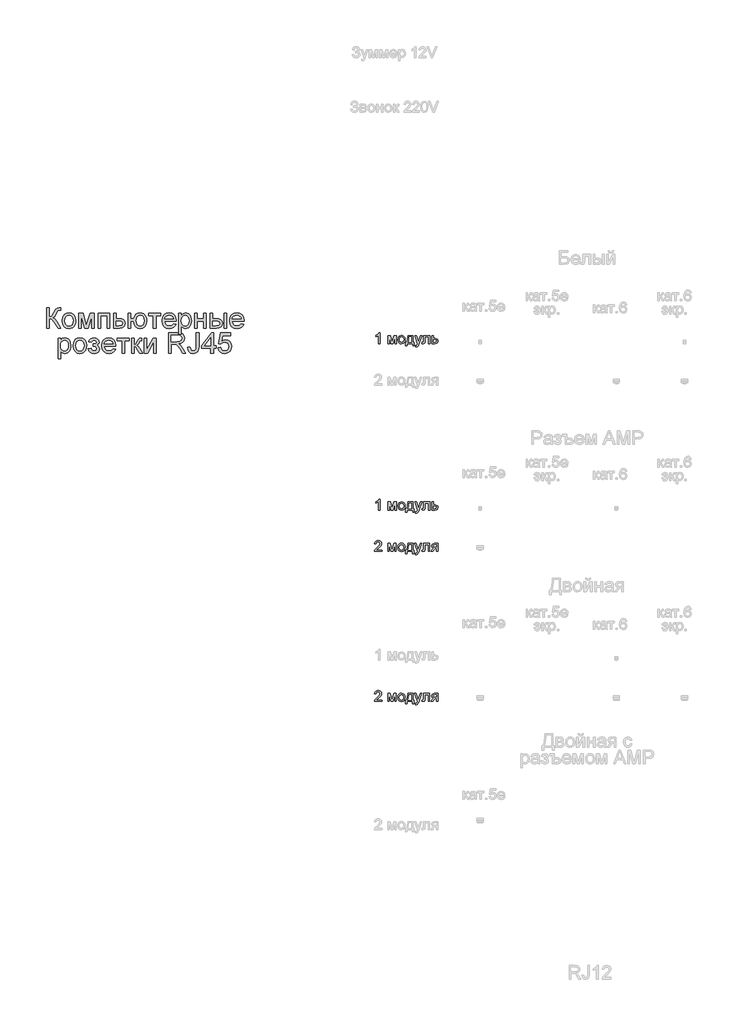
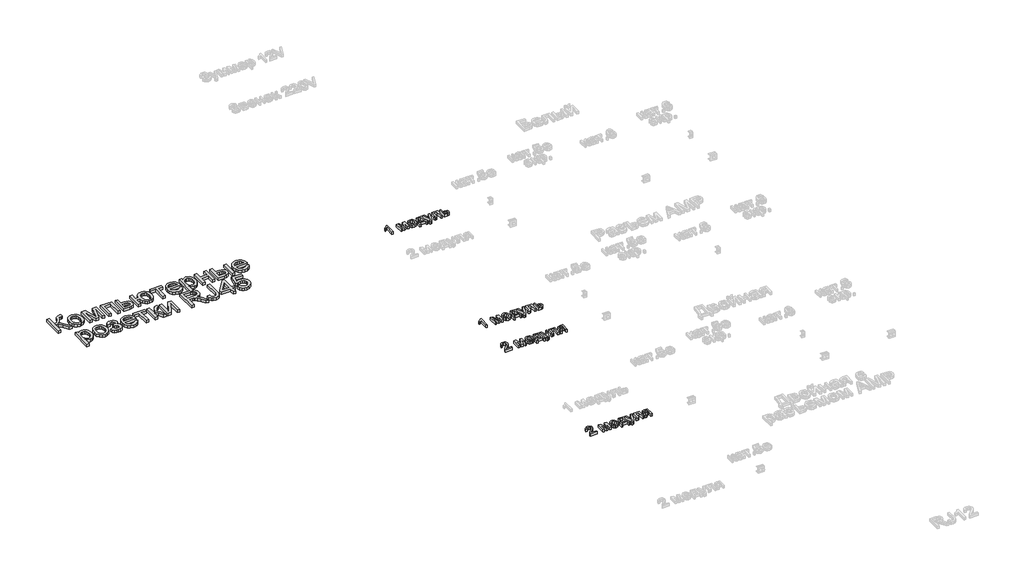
# One storey, part 7 of 47: 5 proxies.
"""IFC4 building model written with IfcOpenShell, lengths in millimetres."""

from ifc_helpers import new_model, si_unit, origin, origin_with_axes, place, context, project, spatial, polyline, outline, extrude, element, save

model = new_model("IFC4")

# Units and contexts
model_context = context("Model", 3, world=origin())
ifc_project = project(units=[si_unit("LENGTHUNIT", "METRE", prefix="MILLI")], contexts=[model_context])

# Site, building, storey
site = spatial("IfcSite", under=ifc_project)
building = spatial("IfcBuilding", under=site)
storey = spatial("IfcBuildingStorey", under=building, Name="Этаж 01", Elevation=0.0)

# Proxies
placement = place(None, origin())
element("IfcBuildingElementProxy", 1, Name="150 мм Arial", ObjectType="150 мм Arial", at=placement, inside=storey, context=model_context, shape_type="SweptSolid", body=[
    extrude(outline(polyline([(-3176.2947493, -20067.8685985), (-3157.4591912, -20067.8685985), (-3157.4591912, -20133.7930521), (-3144.7074815, -20132.5468518), (-3136.3979469, -20128.808251), (-3121.7010612, -20103.5899403), (-3111.3083949, -20082.528696), (-3099.536171, -20072.0992415), (-3082.7055697, -20067.8685985), (-3070.3447347, -20068.0893277), (-3070.3447347, -20086.9248859), (-3074.5018013, -20086.8145213), (-3078.6588678, -20086.7041567), (-3093.3741476, -20091.2291052), (-3104.5577603, -20110.6164864), (-3117.8934826, -20134.2345105), (-3130.8981111, -20142.0336088), (-3116.3575753, -20150.550077), (-3102.0193745, -20168.3003832), (-3070.3447347, -20218.5530638), (-3092.1969252, -20218.5530638), (-3118.9787345, -20176.0994815), (-3137.8326867, -20153.9345913), (-3146.5376944, -20149.4234383), (-3157.4591912, -20147.9197207), (-3157.4591912, -20218.5530638), (-3176.2947493, -20218.5530638), (-3176.2947493, -20067.8685985)])), origin_with_axes(), (0.0, 0.0, 1.0), 20.0),
    extrude(outline(polyline([(-3060.9269556, -20163.2236117), (-3056.8526625, -20136.54297), (-3044.6297832, -20117.7901853), (-3029.5282273, -20108.6023325), (-3011.4468273, -20105.5397148), (-2991.6593745, -20109.2691186), (-2975.8542442, -20120.4573297), (-2965.4937676, -20138.2214316), (-2962.0402753, -20161.6785073), (-2963.5669856, -20180.7072035), (-2968.1471164, -20195.1925571), (-2975.6473106, -20206.0404774), (-2985.9342109, -20214.1568739), (-2998.1524917, -20219.2198499), (-3011.4468273, -20220.9075085), (-3031.4734034, -20217.1919004), (-3047.2601395, -20206.0450759), (-3057.5102516, -20187.9084936), (-3060.9269556, -20163.2236117)]), holes=[polyline([(-3042.0913975, -20163.1868235), (-3039.9116967, -20180.2335554), (-3033.3725942, -20192.3782598), (-3023.5317508, -20199.6485277), (-3011.4468273, -20202.0719504), (-2999.417086, -20199.6347322), (-2989.5946368, -20192.3230775), (-2983.0555343, -20180.0174248), (-2980.8758335, -20162.5982123), (-2983.0693299, -20146.048121), (-2989.6498191, -20134.0689636), (-2999.4860639, -20126.7986956), (-3011.4468273, -20124.375273), (-3023.5317508, -20126.7894986), (-3033.3725942, -20134.0321754), (-3039.9116967, -20146.1492886), (-3042.0913975, -20163.1868235)])]), origin_with_axes(), (0.0, 0.0, 1.0), 20.0),
    extrude(outline(polyline([(-2940.8502724, -20107.8941596), (-2908.4398686, -20107.8941596), (-2883.4606812, -20196.480144), (-2856.5317191, -20107.8941596), (-2825.4824787, -20107.8941596), (-2825.4824787, -20218.5530638), (-2844.3180369, -20218.5530638), (-2844.3180369, -20129.4520445), (-2871.3941517, -20218.5530638), (-2896.1158218, -20218.5530638), (-2922.0147143, -20125.1846134), (-2922.0147143, -20218.5530638), (-2940.8502724, -20218.5530638), (-2940.8502724, -20107.8941596)])), origin_with_axes(), (0.0, 0.0, 1.0), 20.0),
    extrude(outline(polyline([(-2797.2291415, -20107.8941596), (-2712.4691298, -20107.8941596), (-2712.4691298, -20218.5530638), (-2731.304688, -20218.5530638), (-2731.304688, -20126.7297178), (-2778.3935833, -20126.7297178), (-2778.3935833, -20218.5530638), (-2797.2291415, -20218.5530638), (-2797.2291415, -20107.8941596)])), origin_with_axes(), (0.0, 0.0, 1.0), 20.0),
    extrude(outline(polyline([(-2684.2157926, -20107.8941596), (-2665.3802344, -20107.8941596), (-2665.3802344, -20147.9197207), (-2643.6751967, -20147.9197207), (-2624.8580327, -20150.278764), (-2610.9336991, -20157.3558939), (-2602.3252604, -20168.5808932), (-2599.4557809, -20183.383545), (-2601.8975976, -20196.8618216), (-2609.2230479, -20208.2339738), (-2621.9195752, -20215.9732913), (-2640.4746233, -20218.5530638), (-2684.2157926, -20218.5530638), (-2684.2157926, -20107.8941596)]), holes=[polyline([(-2665.3802344, -20199.7175056), (-2647.795475, -20199.7175056), (-2625.0787618, -20195.7627742), (-2619.9881947, -20190.6997982), (-2618.291339, -20183.4203332), (-2623.3129283, -20171.8320504), (-2631.3833395, -20168.0244717), (-2645.5513949, -20166.7552788), (-2665.3802344, -20166.7552788), (-2665.3802344, -20199.7175056)])]), origin_with_axes(), (0.0, 0.0, 1.0), 20.0),
    extrude(outline(polyline([(-2575.9113332, -20107.8941596), (-2557.075775, -20107.8941596), (-2557.075775, -20150.2741655), (-2535.8857721, -20150.2741655), (-2530.9975401, -20131.0707253), (-2521.2624628, -20117.0176331), (-2507.2967426, -20108.4091944), (-2489.7165817, -20105.5397148), (-2474.9415211, -20107.2273735), (-2463.6521424, -20112.2903495), (-2447.906793, -20130.8867843), (-2443.2576843, -20144.7927237), (-2441.7079814, -20162.8189415), (-2444.9131532, -20187.9452818), (-2454.5286689, -20206.1554405), (-2469.6348233, -20217.2194915), (-2489.3119115, -20220.9075085), (-2507.7014128, -20217.4494178), (-2522.035015, -20207.0751455), (-2531.6505306, -20190.6676085), (-2535.8857721, -20169.1097236), (-2557.075775, -20169.1097236), (-2557.075775, -20218.5530638), (-2575.9113332, -20218.5530638), (-2575.9113332, -20107.8941596)]), holes=[polyline([(-2488.5025711, -20124.375273), (-2500.5093198, -20126.8124912), (-2509.5270272, -20134.1241459), (-2515.1694173, -20145.8319904), (-2517.050214, -20161.4577781), (-2515.1556217, -20179.6633383), (-2509.4718449, -20192.2678952), (-2500.6150858, -20199.6209366), (-2489.2015469, -20202.0719504), (-2477.7558184, -20199.8048776), (-2468.5817611, -20193.0036592), (-2462.5530949, -20181.1532604), (-2460.5435395, -20163.7386465), (-2462.2817819, -20146.5171706), (-2467.4965092, -20134.2161164), (-2476.2245095, -20126.8354838), (-2488.5025711, -20124.375273)])]), origin_with_axes(), (0.0, 0.0, 1.0), 20.0),
    extrude(outline(polyline([(-2427.5813127, -20107.8941596), (-2338.1124115, -20107.8941596), (-2338.1124115, -20126.7297178), (-2373.429083, -20126.7297178), (-2373.429083, -20218.5530638), (-2392.2646412, -20218.5530638), (-2392.2646412, -20126.7297178), (-2427.5813127, -20126.7297178), (-2427.5813127, -20107.8941596)])), origin_with_axes(), (0.0, 0.0, 1.0), 20.0),
    extrude(outline(polyline([(-2244.1553499, -20185.590837), (-2225.6876738, -20187.9452818), (-2232.3417394, -20201.8604182), (-2242.9597335, -20212.2622816), (-2257.3025327, -20218.7462018), (-2275.1310139, -20220.9075085), (-2297.2315248, -20217.1781048), (-2314.23687, -20205.9898936), (-2325.0801918, -20188.0694419), (-2328.6946324, -20164.1433167), (-2325.0434036, -20139.4124495), (-2314.0897172, -20120.9171822), (-2297.3142982, -20109.3840817), (-2276.1978717, -20105.5397148), (-2255.7390343, -20109.3748846), (-2239.3912781, -20120.880394), (-2228.6721165, -20139.3388731), (-2225.0990626, -20164.0329521), (-2225.2094272, -20169.1097236), (-2309.8590743, -20169.1097236), (-2306.5987201, -20183.2088011), (-2299.0249495, -20193.5738763), (-2288.0942557, -20199.9474319), (-2274.7631319, -20202.0719504), (-2256.2954558, -20198.135613), (-2244.1553499, -20185.590837)]), holes=[polyline([(-2309.8590743, -20150.2741655), (-2243.9346207, -20150.2741655), (-2246.4822036, -20140.3229575), (-2251.4762016, -20133.2044409), (-2262.4574792, -20126.582565), (-2276.2714481, -20124.375273), (-2288.9679755, -20126.136508), (-2299.4664079, -20131.4202132), (-2306.764267, -20139.6561714), (-2309.8590743, -20150.2741655)])]), origin_with_axes(), (0.0, 0.0, 1.0), 20.0),
    extrude(outline(polyline([(-2206.2635044, -20260.9330696), (-2206.2635044, -20107.8941596), (-2187.4279463, -20107.8941596), (-2187.4279463, -20126.3618358), (-2174.4049237, -20110.7452451), (-2156.8201643, -20105.5397148), (-2144.0822502, -20107.3607307), (-2132.9446228, -20112.8237783), (-2123.8763316, -20121.5977639), (-2117.3464262, -20133.3515937), (-2112.0857137, -20162.3774831), (-2113.5710372, -20178.486116), (-2118.0270079, -20192.8932946), (-2125.3110714, -20204.8678535), (-2135.2806735, -20213.6786273), (-2146.8919489, -20219.1002882), (-2159.1010327, -20220.9075085), (-2175.4901755, -20216.0698603), (-2187.4279463, -20203.837784), (-2187.4279463, -20260.9330696), (-2206.2635044, -20260.9330696)]), holes=[polyline([(-2187.4279463, -20164.1065285), (-2185.3907997, -20180.9923121), (-2179.2793601, -20192.8013241), (-2170.2616527, -20199.7542938), (-2159.5057029, -20202.0719504), (-2148.5750091, -20199.6715204), (-2139.3273754, -20192.4702303), (-2133.0227977, -20180.2289569), (-2130.9212718, -20162.7085769), (-2132.9722139, -20145.9147638), (-2139.1250403, -20133.9402049), (-2148.1289522, -20126.766506), (-2158.7331507, -20124.375273), (-2169.3787359, -20126.9182573), (-2178.7275371, -20134.5472102), (-2185.252844, -20147.0230083), (-2187.4279463, -20164.1065285)])]), origin_with_axes(), (0.0, 0.0, 1.0), 20.0),
    extrude(outline(polyline([(-2090.8957108, -20107.8941596), (-2072.0601526, -20107.8941596), (-2072.0601526, -20150.2741655), (-2022.6168124, -20150.2741655), (-2022.6168124, -20107.8941596), (-2003.7812543, -20107.8941596), (-2003.7812543, -20218.5530638), (-2022.6168124, -20218.5530638), (-2022.6168124, -20169.1097236), (-2072.0601526, -20169.1097236), (-2072.0601526, -20218.5530638), (-2090.8957108, -20218.5530638), (-2090.8957108, -20107.8941596)])), origin_with_axes(), (0.0, 0.0, 1.0), 20.0),
    extrude(outline(polyline([(-1871.9323472, -20107.8941596), (-1853.0967891, -20107.8941596), (-1853.0967891, -20218.5530638), (-1871.9323472, -20218.5530638), (-1871.9323472, -20107.8941596)])), origin_with_axes(), (0.0, 0.0, 1.0), 20.0),
    extrude(outline(polyline([(-1975.5279171, -20107.8941596), (-1956.6923589, -20107.8941596), (-1956.6923589, -20147.9197207), (-1933.4054286, -20147.9197207), (-1913.277685, -20150.278764), (-1898.3646686, -20157.3558939), (-1889.135429, -20168.5808932), (-1886.0590158, -20183.383545), (-1888.6387883, -20196.8618216), (-1896.3781058, -20208.2339738), (-1909.782806, -20215.9732913), (-1929.3587267, -20218.5530638), (-1975.5279171, -20218.5530638), (-1975.5279171, -20107.8941596)]), holes=[polyline([(-1956.6923589, -20199.7175056), (-1937.341766, -20199.7175056), (-1912.3625785, -20195.7627742), (-1906.7615751, -20190.6997982), (-1904.894574, -20183.4203332), (-1910.431198, -20171.8320504), (-1919.3109497, -20168.0244717), (-1934.8769566, -20166.7552788), (-1956.6923589, -20166.7552788), (-1956.6923589, -20199.7175056)])]), origin_with_axes(), (0.0, 0.0, 1.0), 20.0),
    extrude(outline(polyline([(-1747.3675037, -20185.590837), (-1728.8998275, -20187.9452818), (-1735.5538931, -20201.8604182), (-1746.1718872, -20212.2622816), (-1760.5146865, -20218.7462018), (-1778.3431676, -20220.9075085), (-1800.4436785, -20217.1781048), (-1817.4490237, -20205.9898936), (-1828.2923455, -20188.0694419), (-1831.9067861, -20164.1433167), (-1828.2555573, -20139.4124495), (-1817.3018709, -20120.9171822), (-1800.526452, -20109.3840817), (-1779.4100254, -20105.5397148), (-1758.951188, -20109.3748846), (-1742.6034318, -20120.880394), (-1731.8842702, -20139.3388731), (-1728.3112163, -20164.0329521), (-1728.4215809, -20169.1097236), (-1813.071228, -20169.1097236), (-1809.8108738, -20183.2088011), (-1802.2371032, -20193.5738763), (-1791.3064095, -20199.9474319), (-1777.9752857, -20202.0719504), (-1759.5076095, -20198.135613), (-1747.3675037, -20185.590837)]), holes=[polyline([(-1813.071228, -20150.2741655), (-1747.1467745, -20150.2741655), (-1749.6943573, -20140.3229575), (-1754.6883554, -20133.2044409), (-1765.6696329, -20126.582565), (-1779.4836018, -20124.375273), (-1792.1801292, -20126.136508), (-1802.6785616, -20131.4202132), (-1809.9764207, -20139.6561714), (-1813.071228, -20150.2741655)])]), origin_with_axes(), (0.0, 0.0, 1.0), 20.0),
    extrude(outline(polyline([(-3091.5347376, -20443.8952964), (-3091.5347376, -20290.8563864), (-3072.6991795, -20290.8563864), (-3072.6991795, -20309.3240625), (-3059.6761568, -20293.7074718), (-3042.0913975, -20288.5019416), (-3029.3534834, -20290.3229575), (-3018.215856, -20295.7860051), (-3009.1475648, -20304.5599907), (-3002.6176594, -20316.3138204), (-2997.3569469, -20345.3397099), (-2998.8422704, -20361.4483427), (-3003.2982411, -20375.8555214), (-3010.5823046, -20387.8300803), (-3020.5519067, -20396.6408541), (-3032.1631821, -20402.062515), (-3044.3722659, -20403.8697353), (-3060.7614087, -20399.0320871), (-3072.6991795, -20386.8000107), (-3072.6991795, -20443.8952964), (-3091.5347376, -20443.8952964)]), holes=[polyline([(-3072.6991795, -20347.0687552), (-3070.6620329, -20363.9545388), (-3064.5505933, -20375.7635509), (-3055.5328859, -20382.7165206), (-3044.776936, -20385.0341771), (-3033.8462423, -20382.6337471), (-3024.5986086, -20375.4324571), (-3018.2940309, -20363.1911837), (-3016.192505, -20345.6708037), (-3018.2434471, -20328.8769906), (-3024.3962735, -20316.9024316), (-3033.4001853, -20309.7287327), (-3044.0043839, -20307.3374998), (-3054.6499691, -20309.8804841), (-3063.9987703, -20317.5094369), (-3070.5240772, -20329.9852351), (-3072.6991795, -20347.0687552)])]), origin_with_axes(), (0.0, 0.0, 1.0), 20.0),
    extrude(outline(polyline([(-2980.8758335, -20346.1858385), (-2976.8015404, -20319.5051968), (-2964.5786611, -20300.752412), (-2949.4771052, -20291.5645592), (-2931.3957051, -20288.5019416), (-2911.6082523, -20292.2313453), (-2895.8031221, -20303.4195565), (-2885.4426454, -20321.1836584), (-2881.9891532, -20344.6407341), (-2883.5158635, -20363.6694303), (-2888.0959943, -20378.1547838), (-2895.5961885, -20389.0027042), (-2905.8830888, -20397.1191007), (-2918.1013695, -20402.1820766), (-2931.3957051, -20403.8697353), (-2951.4222812, -20400.1541271), (-2967.2090174, -20389.0073027), (-2977.4591295, -20370.8707203), (-2980.8758335, -20346.1858385)]), holes=[polyline([(-2962.0402753, -20346.1490503), (-2959.8605745, -20363.1957822), (-2953.321472, -20375.3404866), (-2943.4806287, -20382.6107545), (-2931.3957051, -20385.0341771), (-2919.3659639, -20382.5969589), (-2909.5435146, -20375.2853043), (-2903.0044122, -20362.9796515), (-2900.8247113, -20345.5604391), (-2903.0182077, -20329.0103478), (-2909.5986969, -20317.0311903), (-2919.4349418, -20309.7609224), (-2931.3957051, -20307.3374998), (-2943.4806287, -20309.7517254), (-2953.321472, -20316.9944021), (-2959.8605745, -20329.1115154), (-2962.0402753, -20346.1490503)])]), origin_with_axes(), (0.0, 0.0, 1.0), 20.0),
    extrude(outline(polyline([(-2834.9002578, -20352.0719504), (-2834.9002578, -20333.2363922), (-2820.0378252, -20332.5006282), (-2812.5330325, -20328.582685), (-2809.0013653, -20320.3973106), (-2813.728649, -20310.887561), (-2825.9239371, -20307.3374998), (-2838.5238954, -20310.8691669), (-2846.6724816, -20321.4641684), (-2867.8624846, -20319.1097236), (-2862.2430871, -20305.718819), (-2853.6990277, -20296.1538871), (-2842.2303066, -20290.414928), (-2827.8369235, -20288.5019416), (-2812.0915741, -20290.8333938), (-2800.1721975, -20297.8277502), (-2792.6674048, -20308.0594682), (-2790.1658072, -20320.103005), (-2793.7250655, -20331.8016524), (-2804.4028404, -20340.8515495), (-2791.9500349, -20352.5869852), (-2787.8113624, -20369.4727687), (-2790.4371202, -20383.3373214), (-2798.3143934, -20394.3231975), (-2810.9097532, -20401.4831009), (-2827.6897707, -20403.8697353), (-2844.1019062, -20401.6624433), (-2856.6604778, -20395.0405674), (-2865.3654855, -20384.0041076), (-2870.2169293, -20368.5530638), (-2849.0269264, -20366.198619), (-2840.5288523, -20380.1045584), (-2825.8871489, -20385.0341771), (-2812.1283623, -20380.3068935), (-2806.6469206, -20368.22197), (-2810.049829, -20358.3259443), (-2817.2971043, -20353.0284436), (-2831.2214378, -20351.9615858), (-2834.9002578, -20352.0719504)])), origin_with_axes(), (0.0, 0.0, 1.0), 20.0),
    extrude(outline(polyline([(-2686.7909665, -20368.5530638), (-2668.3232904, -20370.9075085), (-2674.977356, -20384.822645), (-2685.5953501, -20395.2245084), (-2699.9381493, -20401.7084286), (-2717.7666305, -20403.8697353), (-2739.8671414, -20400.1403316), (-2756.8724866, -20388.9521204), (-2767.7158084, -20371.0316687), (-2771.330249, -20347.1055434), (-2767.6790202, -20322.3746763), (-2756.7253338, -20303.879409), (-2739.9499148, -20292.3463085), (-2718.8334883, -20288.5019416), (-2698.3746509, -20292.3371114), (-2682.0268947, -20303.8426208), (-2671.3077331, -20322.3010999), (-2667.7346792, -20346.9951788), (-2667.8450438, -20352.0719504), (-2752.4946909, -20352.0719504), (-2749.2343367, -20366.1710278), (-2741.6605661, -20376.5361031), (-2730.7298723, -20382.9096586), (-2717.3987485, -20385.0341771), (-2698.9310724, -20381.0978398), (-2686.7909665, -20368.5530638)]), holes=[polyline([(-2752.4946909, -20333.2363922), (-2686.5702373, -20333.2363922), (-2689.1178202, -20323.2851843), (-2694.1118182, -20316.1666676), (-2705.0930958, -20309.5447917), (-2718.9070647, -20307.3374998), (-2731.6035921, -20309.0987348), (-2742.1020245, -20314.38244), (-2749.3998836, -20322.6183981), (-2752.4946909, -20333.2363922)])]), origin_with_axes(), (0.0, 0.0, 1.0), 20.0),
    extrude(outline(polyline([(-2658.3169001, -20290.8563864), (-2568.8479989, -20290.8563864), (-2568.8479989, -20309.6919445), (-2604.1646704, -20309.6919445), (-2604.1646704, -20401.5152905), (-2623.0002286, -20401.5152905), (-2623.0002286, -20309.6919445), (-2658.3169001, -20309.6919445), (-2658.3169001, -20290.8563864)])), origin_with_axes(), (0.0, 0.0, 1.0), 20.0),
    extrude(outline(polyline([(-2552.3668855, -20290.8563864), (-2533.5313273, -20290.8563864), (-2533.5313273, -20337.9452818), (-2520.9129749, -20334.5607674), (-2510.5754908, -20314.8422925), (-2501.9854463, -20297.8277502), (-2494.4070772, -20292.2911262), (-2480.6298964, -20290.8563864), (-2477.0246529, -20290.8563864), (-2477.0246529, -20309.8023091), (-2482.1014244, -20309.6919445), (-2491.2984743, -20311.6785073), (-2497.7731974, -20324.0761305), (-2505.3699606, -20337.4854293), (-2516.0201444, -20344.0521229), (-2504.1375559, -20351.3821716), (-2492.4756967, -20366.8240184), (-2472.3157634, -20401.5152905), (-2493.7264955, -20401.5152905), (-2513.4817586, -20367.5597824), (-2523.4145725, -20353.1939905), (-2533.5313273, -20349.7175056), (-2533.5313273, -20401.5152905), (-2552.3668855, -20401.5152905), (-2552.3668855, -20290.8563864)])), origin_with_axes(), (0.0, 0.0, 1.0), 20.0),
    extrude(outline(polyline([(-2460.5435395, -20290.8563864), (-2441.7079814, -20290.8563864), (-2441.7079814, -20375.2485161), (-2395.4284264, -20290.8563864), (-2371.0746383, -20290.8563864), (-2371.0746383, -20401.5152905), (-2389.9101964, -20401.5152905), (-2389.9101964, -20317.6381956), (-2435.8954458, -20401.5152905), (-2460.5435395, -20401.5152905), (-2460.5435395, -20290.8563864)])), origin_with_axes(), (0.0, 0.0, 1.0), 20.0),
    extrude(outline(polyline([(-2281.6057371, -20401.5152905), (-2281.6057371, -20250.8308253), (-2216.6745649, -20250.8308253), (-2186.5266354, -20254.8959213), (-2177.2468121, -20260.5245159), (-2170.045522, -20269.2801074), (-2165.4240044, -20280.1372247), (-2163.8834986, -20292.070397), (-2166.4356799, -20306.9144355), (-2174.092224, -20319.2200882), (-2187.0830569, -20328.2423941), (-2205.638105, -20333.2363922), (-2194.932739, -20341.2930079), (-2179.6656362, -20360.6803891), (-2154.5392959, -20401.5152905), (-2176.4282746, -20401.5152905), (-2196.036385, -20370.2821091), (-2210.1998418, -20349.607141), (-2220.1510498, -20339.839874), (-2229.1089763, -20336.2530246), (-2240.0350716, -20335.590837), (-2262.7701789, -20335.590837), (-2262.7701789, -20401.5152905), (-2281.6057371, -20401.5152905)]), holes=[polyline([(-2262.7701789, -20316.7552788), (-2220.6109023, -20316.7552788), (-2199.1081996, -20314.0881344), (-2186.8945174, -20305.5532721), (-2182.7190567, -20292.7693728), (-2184.710218, -20283.5815199), (-2190.6837019, -20276.1778948), (-2200.9614052, -20271.2942613), (-2215.8652245, -20269.6663835), (-2262.7701789, -20269.6663835), (-2262.7701789, -20316.7552788)])]), origin_with_axes(), (0.0, 0.0, 1.0), 20.0),
    extrude(outline(polyline([(-2140.3390509, -20359.2088611), (-2121.5034927, -20356.7808399), (-2119.5445211, -20370.4752472), (-2115.0655578, -20379.0377006), (-2108.2229527, -20383.535058), (-2099.1730556, -20385.0341771), (-2086.2787917, -20381.6312687), (-2078.8107872, -20372.3606424), (-2076.7690421, -20353.6906312), (-2076.7690421, -20250.8308253), (-2057.933484, -20250.8308253), (-2057.933484, -20353.3595374), (-2062.4768266, -20382.6245501), (-2068.3537415, -20391.7526221), (-2076.8978008, -20398.4250818), (-2100.0559724, -20403.8697353), (-2117.4659879, -20401.0600366), (-2130.2590842, -20392.6309403), (-2138.0213943, -20378.6560231), (-2140.3390509, -20359.2088611)])), origin_with_axes(), (0.0, 0.0, 1.0), 20.0),
    extrude(outline(polyline([(-1970.8190275, -20401.5152905), (-1970.8190275, -20366.198619), (-2039.0979258, -20366.198619), (-2039.0979258, -20347.3630608), (-1966.110138, -20253.1852701), (-1951.9834694, -20253.1852701), (-1951.9834694, -20347.3630608), (-1933.1479112, -20347.3630608), (-1933.1479112, -20366.198619), (-1951.9834694, -20366.198619), (-1951.9834694, -20401.5152905), (-1970.8190275, -20401.5152905)]), holes=[polyline([(-1970.8190275, -20347.3630608), (-1970.8190275, -20289.1641292), (-2015.9213601, -20347.3630608), (-1970.8190275, -20347.3630608)])]), origin_with_axes(), (0.0, 0.0, 1.0), 20.0),
    extrude(outline(polyline([(-1916.6667978, -20361.4897295), (-1897.8312397, -20359.1352847), (-1894.3731489, -20370.4430575), (-1888.3398842, -20378.5410599), (-1879.7590367, -20383.4108978), (-1868.6581975, -20385.0341771), (-1855.1569282, -20382.7763014), (-1845.0401734, -20376.0026742), (-1838.7218001, -20365.4950447), (-1836.6156757, -20352.0351622), (-1838.5884429, -20339.3616274), (-1844.5067445, -20329.6679369), (-1854.4165657, -20323.5151105), (-1868.3638919, -20321.4641684), (-1884.9001876, -20324.7383181), (-1895.4767949, -20333.2363922), (-1914.3123531, -20330.8819475), (-1897.8312397, -20253.1852701), (-1824.8434518, -20253.1852701), (-1824.8434518, -20272.0208282), (-1882.6009251, -20272.0208282), (-1890.6575408, -20313.5179173), (-1877.2022568, -20305.350937), (-1863.1031793, -20302.6286102), (-1845.5046244, -20306.0039275), (-1830.8951107, -20316.1298794), (-1821.0588658, -20331.5625291), (-1817.7801175, -20350.8579398), (-1820.7323705, -20369.6934979), (-1829.5891296, -20385.8067293), (-1846.5484896, -20399.3539838), (-1868.7317739, -20403.8697353), (-1887.2316397, -20400.9680661), (-1901.9699121, -20392.2630583), (-1912.0728714, -20378.7663877), (-1916.6667978, -20361.4897295)])), origin_with_axes(), (0.0, 0.0, 1.0), 20.0),
])
element("IfcBuildingElementProxy", 2, Name="80 мм Arial", ObjectType="80 мм Arial", at=placement, inside=storey, context=model_context, shape_type="SweptSolid", body=[
    extrude(outline(polyline([(-728.9436865, -20331.4329989), (-738.9893175, -20331.4329989), (-738.9893175, -20268.804768), (-748.5051984, -20275.5836069), (-759.0805795, -20280.6554733), (-759.0805795, -20271.1592128), (-744.3554895, -20261.7610541), (-735.4184096, -20251.0679507), (-728.9436865, -20251.0679507), (-728.9436865, -20331.4329989)])), origin_with_axes(), (0.0, 0.0, 1.0), 20.0),
    extrude(outline(polyline([(-671.1813081, -20272.4149166), (-653.8957594, -20272.4149166), (-640.5735261, -20319.660775), (-626.211413, -20272.4149166), (-609.6518182, -20272.4149166), (-609.6518182, -20331.4329989), (-619.6974492, -20331.4329989), (-619.6974492, -20283.9124553), (-634.1380438, -20331.4329989), (-647.3229345, -20331.4329989), (-661.1356771, -20281.636492), (-661.1356771, -20331.4329989), (-671.1813081, -20331.4329989), (-671.1813081, -20272.4149166)])), origin_with_axes(), (0.0, 0.0, 1.0), 20.0),
    extrude(outline(polyline([(-597.0947794, -20301.9239578), (-594.9218231, -20287.6942822), (-588.4029541, -20277.692797), (-580.348791, -20272.7926088), (-570.7053776, -20271.1592128), (-560.1520694, -20273.1482281), (-551.7226667, -20279.1152741), (-546.1970791, -20288.5894617), (-544.3552166, -20301.0999021), (-547.6121985, -20318.974062), (-557.0986489, -20329.0883643), (-570.7053776, -20332.6887027), (-581.3862182, -20330.7070451), (-589.8058108, -20324.762072), (-595.2725372, -20315.0892281), (-597.0947794, -20301.9239578)]), holes=[polyline([(-587.0491484, -20301.9043374), (-582.39912, -20317.4731034), (-570.7053776, -20322.6430717), (-559.050876, -20317.4436729), (-554.4008476, -20301.5904114), (-559.0803066, -20286.3748121), (-570.7053776, -20281.2048438), (-582.39912, -20286.3551917), (-587.0491484, -20301.9043374)])]), origin_with_axes(), (0.0, 0.0, 1.0), 20.0),
    extrude(outline(polyline([(-524.2639545, -20272.4149166), (-486.5928382, -20272.4149166), (-486.5928382, -20321.3873678), (-479.058615, -20321.3873678), (-479.058615, -20347.7571493), (-489.104246, -20347.7571493), (-489.104246, -20331.4329989), (-530.5424739, -20331.4329989), (-530.5424739, -20347.7571493), (-540.5881049, -20347.7571493), (-540.5881049, -20321.3873678), (-534.3095855, -20321.3873678), (-526.549728, -20302.2280735), (-524.2639545, -20272.4149166)]), holes=[polyline([(-515.4740274, -20282.4605477), (-517.8284722, -20305.3477129), (-523.0082507, -20321.3873678), (-496.6384692, -20321.3873678), (-496.6384692, -20282.4605477), (-515.4740274, -20282.4605477)])]), origin_with_axes(), (0.0, 0.0, 1.0), 20.0),
    extrude(outline(polyline([(-467.7572801, -20354.0356686), (-469.012984, -20344.3628247), (-463.911687, -20345.2457415), (-459.1439363, -20344.1371904), (-456.2205007, -20341.0469817), (-453.4736485, -20333.650101), (-452.6888336, -20331.2171748), (-474.0357995, -20272.4149166), (-463.440798, -20272.4149166), (-452.1198427, -20305.1809397), (-448.1761477, -20318.2873489), (-444.2324528, -20306.7113288), (-432.5975715, -20272.4149166), (-422.0810516, -20272.4149166), (-442.6235822, -20332.8456657), (-447.9603236, -20345.9520749), (-453.7875744, -20353.0350296), (-461.6161033, -20355.2913725), (-467.7572801, -20354.0356686)])), origin_with_axes(), (0.0, 0.0, 1.0), 20.0),
    extrude(outline(polyline([(-408.7391979, -20272.4149166), (-363.5338583, -20272.4149166), (-363.5338583, -20331.3741377), (-373.5794893, -20331.3741377), (-373.5794893, -20282.4605477), (-398.6935668, -20282.4605477), (-398.6935668, -20310.615783), (-399.3704697, -20323.60447), (-403.0885304, -20329.0883643), (-411.8784576, -20331.4329989), (-420.0405328, -20330.9228692), (-420.0405328, -20321.3873678), (-415.5474673, -20321.3873678), (-411.005351, -20320.7693261), (-409.1904664, -20318.8072888), (-408.7391979, -20310.0467922), (-408.7391979, -20272.4149166)])), origin_with_axes(), (0.0, 0.0, 1.0), 20.0),
    extrude(outline(polyline([(-348.4654118, -20272.4149166), (-338.4197808, -20272.4149166), (-338.4197808, -20293.7618826), (-326.8437606, -20293.7618826), (-309.3816286, -20298.7945083), (-304.7904613, -20304.7811746), (-303.2600722, -20312.6759222), (-308.4692813, -20325.9294842), (-315.2407625, -20330.0571202), (-325.1367882, -20331.4329989), (-348.4654118, -20331.4329989), (-348.4654118, -20272.4149166)]), holes=[polyline([(-338.4197808, -20321.3873678), (-329.0412424, -20321.3873678), (-316.9256621, -20319.2781777), (-313.3057032, -20312.6955426), (-315.9838841, -20306.5151251), (-327.8443997, -20303.8075136), (-338.4197808, -20303.8075136), (-338.4197808, -20321.3873678)])]), origin_with_axes(), (0.0, 0.0, 1.0), 20.0),
])
element("IfcBuildingElementProxy", 3, Name="80 мм Arial", ObjectType="80 мм Arial", at=placement, inside=storey, context=model_context, shape_type="SweptSolid", body=[
    extrude(outline(polyline([(-728.9436865, -21551.4329989), (-738.9893175, -21551.4329989), (-738.9893175, -21488.804768), (-748.5051984, -21495.5836069), (-759.0805795, -21500.6554733), (-759.0805795, -21491.1592128), (-744.3554895, -21481.7610541), (-735.4184096, -21471.0679507), (-728.9436865, -21471.0679507), (-728.9436865, -21551.4329989)])), origin_with_axes(), (0.0, 0.0, 1.0), 20.0),
    extrude(outline(polyline([(-671.1813081, -21492.4149166), (-653.8957594, -21492.4149166), (-640.5735261, -21539.660775), (-626.211413, -21492.4149166), (-609.6518182, -21492.4149166), (-609.6518182, -21551.4329989), (-619.6974492, -21551.4329989), (-619.6974492, -21503.9124553), (-634.1380438, -21551.4329989), (-647.3229345, -21551.4329989), (-661.1356771, -21501.636492), (-661.1356771, -21551.4329989), (-671.1813081, -21551.4329989), (-671.1813081, -21492.4149166)])), origin_with_axes(), (0.0, 0.0, 1.0), 20.0),
    extrude(outline(polyline([(-597.0947794, -21521.9239578), (-594.9218231, -21507.6942822), (-588.4029541, -21497.692797), (-580.348791, -21492.7926088), (-570.7053776, -21491.1592128), (-560.1520694, -21493.1482281), (-551.7226667, -21499.1152741), (-546.1970791, -21508.5894617), (-544.3552166, -21521.0999021), (-547.6121985, -21538.974062), (-557.0986489, -21549.0883643), (-570.7053776, -21552.6887027), (-581.3862182, -21550.7070451), (-589.8058108, -21544.762072), (-595.2725372, -21535.0892281), (-597.0947794, -21521.9239578)]), holes=[polyline([(-587.0491484, -21521.9043374), (-582.39912, -21537.4731034), (-570.7053776, -21542.6430717), (-559.050876, -21537.4436729), (-554.4008476, -21521.5904114), (-559.0803066, -21506.3748121), (-570.7053776, -21501.2048438), (-582.39912, -21506.3551917), (-587.0491484, -21521.9043374)])]), origin_with_axes(), (0.0, 0.0, 1.0), 20.0),
    extrude(outline(polyline([(-524.2639545, -21492.4149166), (-486.5928382, -21492.4149166), (-486.5928382, -21541.3873678), (-479.058615, -21541.3873678), (-479.058615, -21567.7571493), (-489.104246, -21567.7571493), (-489.104246, -21551.4329989), (-530.5424739, -21551.4329989), (-530.5424739, -21567.7571493), (-540.5881049, -21567.7571493), (-540.5881049, -21541.3873678), (-534.3095855, -21541.3873678), (-526.549728, -21522.2280735), (-524.2639545, -21492.4149166)]), holes=[polyline([(-515.4740274, -21502.4605477), (-517.8284722, -21525.3477129), (-523.0082507, -21541.3873678), (-496.6384692, -21541.3873678), (-496.6384692, -21502.4605477), (-515.4740274, -21502.4605477)])]), origin_with_axes(), (0.0, 0.0, 1.0), 20.0),
    extrude(outline(polyline([(-467.7572801, -21574.0356686), (-469.012984, -21564.3628247), (-463.911687, -21565.2457415), (-459.1439363, -21564.1371904), (-456.2205007, -21561.0469817), (-453.4736485, -21553.650101), (-452.6888336, -21551.2171748), (-474.0357995, -21492.4149166), (-463.440798, -21492.4149166), (-452.1198427, -21525.1809397), (-448.1761477, -21538.2873489), (-444.2324528, -21526.7113288), (-432.5975715, -21492.4149166), (-422.0810516, -21492.4149166), (-442.6235822, -21552.8456657), (-447.9603236, -21565.9520749), (-453.7875744, -21573.0350296), (-461.6161033, -21575.2913725), (-467.7572801, -21574.0356686)])), origin_with_axes(), (0.0, 0.0, 1.0), 20.0),
    extrude(outline(polyline([(-408.7391979, -21492.4149166), (-363.5338583, -21492.4149166), (-363.5338583, -21551.3741377), (-373.5794893, -21551.3741377), (-373.5794893, -21502.4605477), (-398.6935668, -21502.4605477), (-398.6935668, -21530.615783), (-399.3704697, -21543.60447), (-403.0885304, -21549.0883643), (-411.8784576, -21551.4329989), (-420.0405328, -21550.9228692), (-420.0405328, -21541.3873678), (-415.5474673, -21541.3873678), (-411.005351, -21540.7693261), (-409.1904664, -21538.8072888), (-408.7391979, -21530.0467922), (-408.7391979, -21492.4149166)])), origin_with_axes(), (0.0, 0.0, 1.0), 20.0),
    extrude(outline(polyline([(-348.4654118, -21492.4149166), (-338.4197808, -21492.4149166), (-338.4197808, -21513.7618826), (-326.8437606, -21513.7618826), (-309.3816286, -21518.7945083), (-304.7904613, -21524.7811746), (-303.2600722, -21532.6759222), (-308.4692813, -21545.9294842), (-315.2407625, -21550.0571202), (-325.1367882, -21551.4329989), (-348.4654118, -21551.4329989), (-348.4654118, -21492.4149166)]), holes=[polyline([(-338.4197808, -21541.3873678), (-329.0412424, -21541.3873678), (-316.9256621, -21539.2781777), (-313.3057032, -21532.6955426), (-315.9838841, -21526.5151251), (-327.8443997, -21523.8075136), (-338.4197808, -21523.8075136), (-338.4197808, -21541.3873678)])]), origin_with_axes(), (0.0, 0.0, 1.0), 20.0),
])
element("IfcBuildingElementProxy", 4, Name="80 мм Arial", ObjectType="80 мм Arial", at=placement, inside=storey, context=model_context, shape_type="SweptSolid", body=[
    extrude(outline(polyline([(-716.3866477, -21845.1206602), (-716.3866477, -21855.1662912), (-769.1262105, -21855.1662912), (-768.04709, -21848.2402995), (-761.945154, -21837.5766267), (-749.3684948, -21825.9319353), (-732.024085, -21809.1957571), (-727.6879826, -21797.8159407), (-731.7788304, -21788.6041755), (-742.4621235, -21784.8468741), (-753.5966852, -21788.5158838), (-757.8248756, -21798.6596167), (-767.8705066, -21797.4039128), (-765.4351278, -21787.6869231), (-760.1695102, -21780.5892531), (-752.348339, -21776.2482456), (-742.2462994, -21774.801243), (-732.0706834, -21776.4101136), (-724.2642275, -21781.2367254), (-719.2978206, -21788.4472125), (-717.6423516, -21797.2077091), (-719.4278055, -21806.7334002), (-725.3629684, -21816.5828275), (-739.754512, -21830.3465192), (-751.3109118, -21840.009553), (-755.843218, -21845.1206602), (-716.3866477, -21845.1206602)])), origin_with_axes(), (0.0, 0.0, 1.0), 20.0),
    extrude(outline(polyline([(-672.437012, -21796.148209), (-655.1514633, -21796.148209), (-641.82923, -21843.3940673), (-627.4671169, -21796.148209), (-610.907522, -21796.148209), (-610.907522, -21855.1662912), (-620.9531531, -21855.1662912), (-620.9531531, -21807.6457476), (-635.3937476, -21855.1662912), (-648.5786383, -21855.1662912), (-662.391381, -21805.3697843), (-662.391381, -21855.1662912), (-672.437012, -21855.1662912), (-672.437012, -21796.148209)])), origin_with_axes(), (0.0, 0.0, 1.0), 20.0),
    extrude(outline(polyline([(-598.3504833, -21825.6572501), (-596.177527, -21811.4275745), (-589.658658, -21801.4260893), (-581.6044948, -21796.5259011), (-571.9610815, -21794.8925051), (-561.4077733, -21796.8815204), (-552.9783705, -21802.8485664), (-547.452783, -21812.322754), (-545.6109204, -21824.8331944), (-548.8679024, -21842.7073543), (-558.3543528, -21852.8216566), (-571.9610815, -21856.421995), (-582.6419221, -21854.4403374), (-591.0615147, -21848.4953643), (-596.5282411, -21838.8225204), (-598.3504833, -21825.6572501)]), holes=[polyline([(-588.3048523, -21825.6376297), (-583.6548238, -21841.2063957), (-571.9610815, -21846.376364), (-560.3065799, -21841.1769652), (-555.6565515, -21825.3237037), (-560.3360104, -21810.1081044), (-571.9610815, -21804.9381361), (-583.6548238, -21810.088484), (-588.3048523, -21825.6376297)])]), origin_with_axes(), (0.0, 0.0, 1.0), 20.0),
    extrude(outline(polyline([(-525.5196584, -21796.148209), (-487.8485421, -21796.148209), (-487.8485421, -21845.1206602), (-480.3143188, -21845.1206602), (-480.3143188, -21871.4904416), (-490.3599499, -21871.4904416), (-490.3599499, -21855.1662912), (-531.7981778, -21855.1662912), (-531.7981778, -21871.4904416), (-541.8438088, -21871.4904416), (-541.8438088, -21845.1206602), (-535.5652894, -21845.1206602), (-527.8054319, -21825.9613658), (-525.5196584, -21796.148209)]), holes=[polyline([(-516.7297313, -21806.19384), (-519.084176, -21829.0810052), (-524.2639545, -21845.1206602), (-497.8941731, -21845.1206602), (-497.8941731, -21806.19384), (-516.7297313, -21806.19384)])]), origin_with_axes(), (0.0, 0.0, 1.0), 20.0),
    extrude(outline(polyline([(-469.012984, -21877.768961), (-470.2686878, -21868.096117), (-465.1673908, -21868.9790338), (-460.3996402, -21867.8704827), (-457.4762046, -21864.780274), (-454.7293524, -21857.3833933), (-453.9445374, -21854.9504671), (-475.2915033, -21796.148209), (-464.6965019, -21796.148209), (-453.3755466, -21828.914232), (-449.4318516, -21842.0206412), (-445.4881566, -21830.4446211), (-433.8532754, -21796.148209), (-423.3367554, -21796.148209), (-443.879286, -21856.578958), (-449.2160275, -21869.6853672), (-455.0432783, -21876.7683219), (-462.8718072, -21879.0246648), (-469.012984, -21877.768961)])), origin_with_axes(), (0.0, 0.0, 1.0), 20.0),
    extrude(outline(polyline([(-409.9949017, -21796.148209), (-364.7895622, -21796.148209), (-364.7895622, -21855.1074301), (-374.8351932, -21855.1074301), (-374.8351932, -21806.19384), (-399.9492707, -21806.19384), (-399.9492707, -21834.3490753), (-400.6261736, -21847.3377623), (-404.3442343, -21852.8216566), (-413.1341614, -21855.1662912), (-421.2962366, -21854.6561615), (-421.2962366, -21845.1206602), (-416.8031712, -21845.1206602), (-412.2610548, -21844.5026184), (-410.4461703, -21842.5405811), (-409.9949017, -21833.7800845), (-409.9949017, -21796.148209)])), origin_with_axes(), (0.0, 0.0, 1.0), 20.0),
    extrude(outline(polyline([(-304.5157761, -21796.148209), (-304.5157761, -21855.1662912), (-314.5614071, -21855.1662912), (-314.5614071, -21832.5636214), (-320.0354912, -21832.5636214), (-327.491233, -21833.8389456), (-334.4957061, -21842.4130487), (-342.5008184, -21855.1662912), (-354.1160792, -21855.1662912), (-344.0312075, -21839.0383445), (-335.4767248, -21830.6800656), (-347.1704671, -21824.5781295), (-350.9768195, -21813.1983132), (-345.7774207, -21800.8767189), (-330.7285945, -21796.148209), (-304.5157761, -21796.148209)]), holes=[polyline([(-314.5614071, -21806.19384), (-327.8051589, -21806.19384), (-338.5276928, -21808.5188542), (-340.9311885, -21813.9635077), (-337.3897112, -21820.448041), (-324.8424826, -21822.5179904), (-314.5614071, -21822.5179904), (-314.5614071, -21806.19384)])]), origin_with_axes(), (0.0, 0.0, 1.0), 20.0),
])
element("IfcBuildingElementProxy", 5, Name="80 мм Arial", ObjectType="80 мм Arial", at=placement, inside=storey, context=model_context, shape_type="SweptSolid", body=[
    extrude(outline(polyline([(-716.3866477, -22945.1206602), (-716.3866477, -22955.1662912), (-769.1262105, -22955.1662912), (-768.04709, -22948.2402995), (-761.945154, -22937.5766267), (-749.3684948, -22925.9319353), (-732.024085, -22909.1957571), (-727.6879826, -22897.8159407), (-731.7788304, -22888.6041755), (-742.4621235, -22884.8468741), (-753.5966852, -22888.5158838), (-757.8248756, -22898.6596167), (-767.8705066, -22897.4039128), (-765.4351278, -22887.6869231), (-760.1695102, -22880.5892531), (-752.348339, -22876.2482456), (-742.2462994, -22874.801243), (-732.0706834, -22876.4101136), (-724.2642275, -22881.2367254), (-719.2978206, -22888.4472125), (-717.6423516, -22897.2077091), (-719.4278055, -22906.7334002), (-725.3629684, -22916.5828275), (-739.754512, -22930.3465192), (-751.3109118, -22940.009553), (-755.843218, -22945.1206602), (-716.3866477, -22945.1206602)])), origin_with_axes(), (0.0, 0.0, 1.0), 20.0),
    extrude(outline(polyline([(-672.437012, -22896.148209), (-655.1514633, -22896.148209), (-641.82923, -22943.3940673), (-627.4671169, -22896.148209), (-610.907522, -22896.148209), (-610.907522, -22955.1662912), (-620.9531531, -22955.1662912), (-620.9531531, -22907.6457476), (-635.3937476, -22955.1662912), (-648.5786383, -22955.1662912), (-662.391381, -22905.3697843), (-662.391381, -22955.1662912), (-672.437012, -22955.1662912), (-672.437012, -22896.148209)])), origin_with_axes(), (0.0, 0.0, 1.0), 20.0),
    extrude(outline(polyline([(-598.3504833, -22925.6572501), (-596.177527, -22911.4275745), (-589.658658, -22901.4260893), (-581.6044948, -22896.5259011), (-571.9610815, -22894.8925051), (-561.4077733, -22896.8815204), (-552.9783705, -22902.8485664), (-547.452783, -22912.322754), (-545.6109204, -22924.8331944), (-548.8679024, -22942.7073543), (-558.3543528, -22952.8216566), (-571.9610815, -22956.421995), (-582.6419221, -22954.4403374), (-591.0615147, -22948.4953643), (-596.5282411, -22938.8225204), (-598.3504833, -22925.6572501)]), holes=[polyline([(-588.3048523, -22925.6376297), (-583.6548238, -22941.2063957), (-571.9610815, -22946.376364), (-560.3065799, -22941.1769652), (-555.6565515, -22925.3237037), (-560.3360104, -22910.1081044), (-571.9610815, -22904.9381361), (-583.6548238, -22910.088484), (-588.3048523, -22925.6376297)])]), origin_with_axes(), (0.0, 0.0, 1.0), 20.0),
    extrude(outline(polyline([(-525.5196584, -22896.148209), (-487.8485421, -22896.148209), (-487.8485421, -22945.1206602), (-480.3143188, -22945.1206602), (-480.3143188, -22971.4904416), (-490.3599499, -22971.4904416), (-490.3599499, -22955.1662912), (-531.7981778, -22955.1662912), (-531.7981778, -22971.4904416), (-541.8438088, -22971.4904416), (-541.8438088, -22945.1206602), (-535.5652894, -22945.1206602), (-527.8054319, -22925.9613658), (-525.5196584, -22896.148209)]), holes=[polyline([(-516.7297313, -22906.19384), (-519.084176, -22929.0810052), (-524.2639545, -22945.1206602), (-497.8941731, -22945.1206602), (-497.8941731, -22906.19384), (-516.7297313, -22906.19384)])]), origin_with_axes(), (0.0, 0.0, 1.0), 20.0),
    extrude(outline(polyline([(-469.012984, -22977.768961), (-470.2686878, -22968.096117), (-465.1673908, -22968.9790338), (-460.3996402, -22967.8704827), (-457.4762046, -22964.780274), (-454.7293524, -22957.3833933), (-453.9445374, -22954.9504671), (-475.2915033, -22896.148209), (-464.6965019, -22896.148209), (-453.3755466, -22928.914232), (-449.4318516, -22942.0206412), (-445.4881566, -22930.4446211), (-433.8532754, -22896.148209), (-423.3367554, -22896.148209), (-443.879286, -22956.578958), (-449.2160275, -22969.6853672), (-455.0432783, -22976.7683219), (-462.8718072, -22979.0246648), (-469.012984, -22977.768961)])), origin_with_axes(), (0.0, 0.0, 1.0), 20.0),
    extrude(outline(polyline([(-409.9949017, -22896.148209), (-364.7895622, -22896.148209), (-364.7895622, -22955.1074301), (-374.8351932, -22955.1074301), (-374.8351932, -22906.19384), (-399.9492707, -22906.19384), (-399.9492707, -22934.3490753), (-400.6261736, -22947.3377623), (-404.3442343, -22952.8216566), (-413.1341614, -22955.1662912), (-421.2962366, -22954.6561615), (-421.2962366, -22945.1206602), (-416.8031712, -22945.1206602), (-412.2610548, -22944.5026184), (-410.4461703, -22942.5405811), (-409.9949017, -22933.7800845), (-409.9949017, -22896.148209)])), origin_with_axes(), (0.0, 0.0, 1.0), 20.0),
    extrude(outline(polyline([(-304.5157761, -22896.148209), (-304.5157761, -22955.1662912), (-314.5614071, -22955.1662912), (-314.5614071, -22932.5636214), (-320.0354912, -22932.5636214), (-327.491233, -22933.8389456), (-334.4957061, -22942.4130487), (-342.5008184, -22955.1662912), (-354.1160792, -22955.1662912), (-344.0312075, -22939.0383445), (-335.4767248, -22930.6800656), (-347.1704671, -22924.5781295), (-350.9768195, -22913.1983132), (-345.7774207, -22900.8767189), (-330.7285945, -22896.148209), (-304.5157761, -22896.148209)]), holes=[polyline([(-314.5614071, -22906.19384), (-327.8051589, -22906.19384), (-338.5276928, -22908.5188542), (-340.9311885, -22913.9635077), (-337.3897112, -22920.448041), (-324.8424826, -22922.5179904), (-314.5614071, -22922.5179904), (-314.5614071, -22906.19384)])]), origin_with_axes(), (0.0, 0.0, 1.0), 20.0),
])

save(model, "model.ifc")
